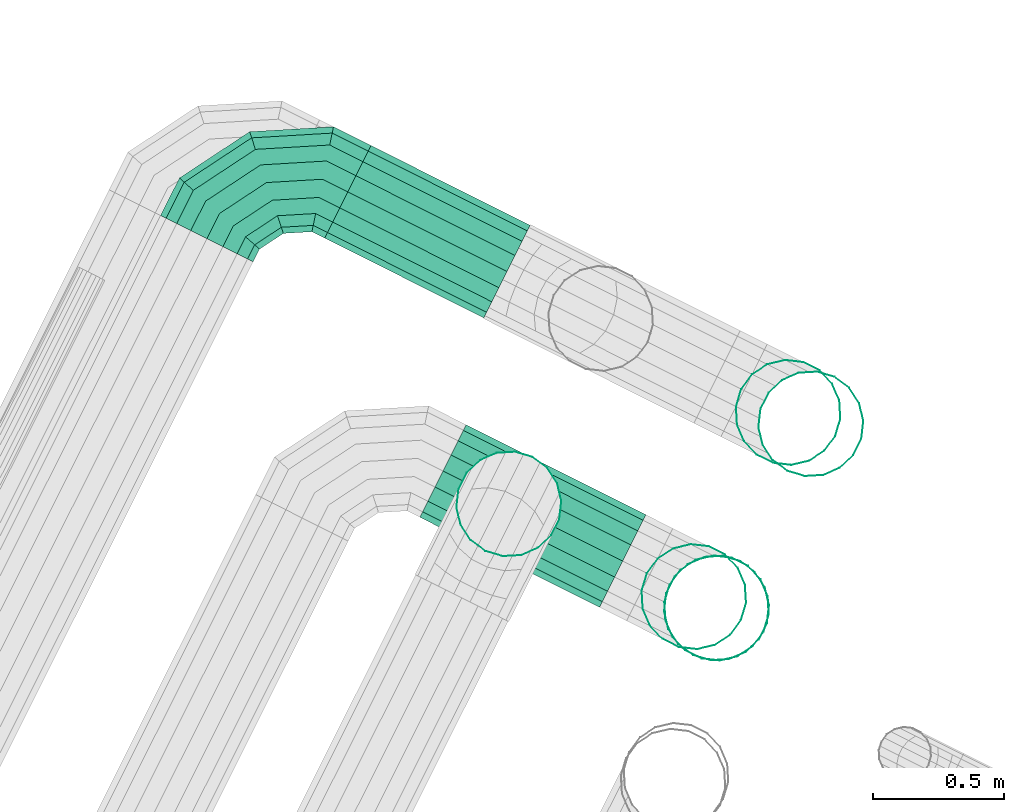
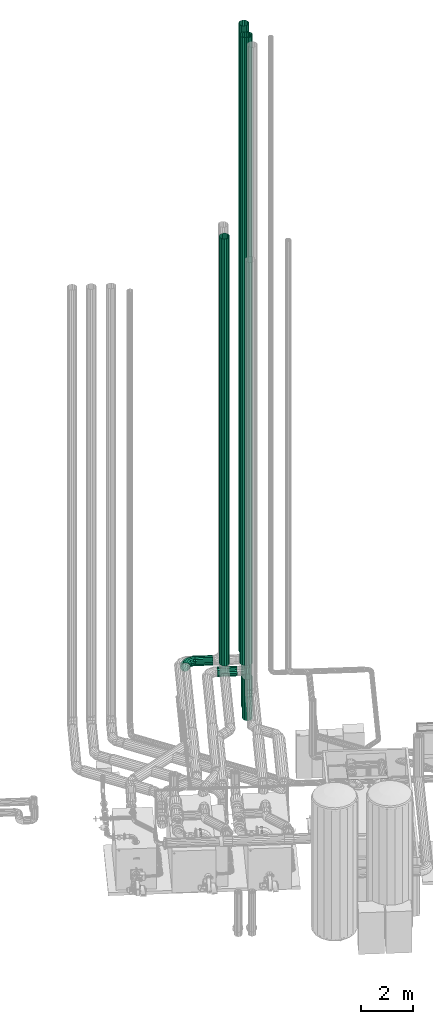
# One storey, part 31 of 206: 8 flow segments, 1 flow fitting.
"""IFC2X3 building model written with IfcOpenShell, lengths in metres."""

from ifc_helpers import new_model, si_unit, derived_unit, direction, frame, origin, place, context, subcontext, project, spatial, face_set, surface_model, source, transform, mapped, material, type_object, type_shapes, element, save


model = new_model("IFC2X3")

# Units and contexts
model_context = context("Model", 3, precision=5.2338327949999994e-05, world=origin(), true_north=direction((0.0, 1.0)))
body_context = subcontext(model_context, "Body", "Model", "MODEL_VIEW")
ifc_project = project(units=[si_unit("LENGTHUNIT", "METRE"), si_unit("AREAUNIT", "SQUARE_METRE"), si_unit("VOLUMEUNIT", "CUBIC_METRE"), si_unit("MASSUNIT", "GRAM", prefix="KILO"), si_unit("PLANEANGLEUNIT", "RADIAN"), derived_unit("THERMALTRANSMITTANCEUNIT", [(si_unit("MASSUNIT", "GRAM", prefix="KILO"), 1), (si_unit("THERMODYNAMICTEMPERATUREUNIT", "KELVIN"), -1), (si_unit("TIMEUNIT", "SECOND"), -3)])], contexts=[model_context])

# Site, building, storey
site_placement = place(None, frame((0.0, 0.0, 0.0), z_axis=(0.0, 0.0, 1.0), x_axis=(0.8939966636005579, -0.4480736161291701, 0.0)))
site = spatial("IfcSite", under=ifc_project, at=site_placement, Name="Default", CompositionType="ELEMENT")
building_placement = place(site_placement, origin())
building = spatial("IfcBuilding", under=site, at=building_placement, CompositionType="ELEMENT")
storey_placement = place(building_placement, origin())
storey = spatial("IfcBuildingStorey", under=building, at=storey_placement, Name="Erdgeschoss", CompositionType="ELEMENT", Elevation=0.0)

# Flow segments
ifc_material = material(Name="IfcSurfaceStyle #251447")
distribution_element_type_1 = type_object("IfcDistributionElementType", Name="Wickelfalzrohr:Wickelfalzrohr", material=ifc_material)
shared_shape_1 = source(origin(), body_context, "Body", "SurfaceModel", [
    surface_model("IfcFaceBasedSurfaceModel", [(26.090831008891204, 17.197595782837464, 2.599999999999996), (26.102892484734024, 17.129191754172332, 2.599999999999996), (26.102892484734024, 17.129191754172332, 32.0), (26.090831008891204, 17.197595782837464, 32.0), (26.137622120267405, 17.069038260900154, 2.599999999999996), (26.137622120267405, 17.069038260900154, 32.0), (26.190831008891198, 17.02439070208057, 2.599999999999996), (26.190831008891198, 17.02439070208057, 32.0), (26.25610137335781, 17.00063423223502, 2.599999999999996), (26.25610137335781, 17.00063423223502, 32.0), (26.325560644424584, 17.000634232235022, 2.599999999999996), (26.325560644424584, 17.000634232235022, 32.0), (26.390831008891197, 17.024390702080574, 2.599999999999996), (26.390831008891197, 17.024390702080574, 32.0), (26.44403989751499, 17.069038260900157, 2.599999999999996), (26.44403989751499, 17.069038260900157, 32.0), (26.478769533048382, 17.12919175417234, 2.599999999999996), (26.478769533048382, 17.12919175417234, 32.0), (26.490831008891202, 17.19759578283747, 2.599999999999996), (26.490831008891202, 17.19759578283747, 32.0), (26.478769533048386, 17.265999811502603, 2.599999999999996), (26.478769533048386, 17.265999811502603, 32.0), (26.444039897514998, 17.32615330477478, 2.599999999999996), (26.444039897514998, 17.32615330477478, 32.0), (26.390831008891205, 17.37080086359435, 2.599999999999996), (26.390831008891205, 17.37080086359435, 32.0), (26.32556064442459, 17.39455733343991, 2.599999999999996), (26.32556064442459, 17.39455733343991, 32.0), (26.25610137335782, 17.39455733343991, 2.599999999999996), (26.25610137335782, 17.39455733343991, 32.0), (26.19083100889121, 17.37080086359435, 2.599999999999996), (26.19083100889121, 17.37080086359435, 32.0), (26.137622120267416, 17.32615330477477, 2.599999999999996), (26.137622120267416, 17.32615330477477, 32.0), (26.10289248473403, 17.265999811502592, 2.599999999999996), (26.10289248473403, 17.265999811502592, 32.0)], [face_set([[[0, 1, 2, 3]], [[1, 4, 5, 2]], [[4, 6, 7, 5]], [[6, 8, 9, 7]], [[8, 10, 11, 9]], [[10, 12, 13, 11]], [[12, 14, 15, 13]], [[14, 16, 17, 15]], [[16, 18, 19, 17]], [[18, 20, 21, 19]], [[20, 22, 23, 21]], [[22, 24, 25, 23]], [[24, 26, 27, 25]], [[26, 28, 29, 27]], [[28, 30, 31, 29]], [[30, 32, 33, 31]], [[32, 34, 35, 33]], [[34, 0, 3, 35]]])]),
])
type_shapes(distribution_element_type_1, [shared_shape_1])
flow_segment_1_placement = place(storey_placement, origin())
element("IfcFlowSegment", 1, at=flow_segment_1_placement, inside=storey, type_object=distribution_element_type_1, material=ifc_material, Name="Wickelfalzrohr", ObjectType="Wickelfalzrohr", context=body_context, shape_type="MappedRepresentation", body=[
    mapped(shared_shape_1, transform((0.0, 0.0, 0.0), scale=1.0)),
])
distribution_element_type_2 = type_object("IfcDistributionElementType", Name="Wickelfalzrohr 251470:Wickelfalzrohr 251470", material=ifc_material)
shared_shape_2 = source(origin(), body_context, "Body", "SurfaceModel", [
    surface_model("IfcFaceBasedSurfaceModel", [(26.08411159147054, 16.41, 2.599999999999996), (26.09617306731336, 16.34159597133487, 2.599999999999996), (26.09617306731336, 16.34159597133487, 32.0), (26.08411159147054, 16.41, 32.0), (26.13090270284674, 16.28144247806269, 2.599999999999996), (26.13090270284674, 16.28144247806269, 32.0), (26.184111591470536, 16.236794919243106, 2.599999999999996), (26.184111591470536, 16.236794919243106, 32.0), (26.24938195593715, 16.21303844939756, 2.599999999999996), (26.24938195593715, 16.21303844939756, 32.0), (26.318841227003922, 16.21303844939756, 2.599999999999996), (26.318841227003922, 16.21303844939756, 32.0), (26.384111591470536, 16.23679491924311, 2.599999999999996), (26.384111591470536, 16.23679491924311, 32.0), (26.43732048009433, 16.281442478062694, 2.599999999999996), (26.43732048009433, 16.281442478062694, 32.0), (26.47205011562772, 16.341595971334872, 2.599999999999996), (26.47205011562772, 16.341595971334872, 32.0), (26.484111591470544, 16.410000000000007, 2.599999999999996), (26.484111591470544, 16.410000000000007, 32.0), (26.472050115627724, 16.47840402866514, 2.599999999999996), (26.472050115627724, 16.47840402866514, 32.0), (26.437320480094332, 16.538557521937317, 2.599999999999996), (26.437320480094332, 16.538557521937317, 32.0), (26.38411159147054, 16.58320508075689, 2.599999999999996), (26.38411159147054, 16.58320508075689, 32.0), (26.318841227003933, 16.606961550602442, 2.599999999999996), (26.318841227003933, 16.606961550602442, 32.0), (26.249381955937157, 16.606961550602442, 2.599999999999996), (26.249381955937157, 16.606961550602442, 32.0), (26.184111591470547, 16.58320508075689, 2.599999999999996), (26.184111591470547, 16.58320508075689, 32.0), (26.130902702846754, 16.538557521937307, 2.599999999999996), (26.130902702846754, 16.538557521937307, 32.0), (26.096173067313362, 16.478404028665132, 2.599999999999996), (26.096173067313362, 16.478404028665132, 32.0)], [face_set([[[0, 1, 2, 3]], [[1, 4, 5, 2]], [[4, 6, 7, 5]], [[6, 8, 9, 7]], [[8, 10, 11, 9]], [[10, 12, 13, 11]], [[12, 14, 15, 13]], [[14, 16, 17, 15]], [[16, 18, 19, 17]], [[18, 20, 21, 19]], [[20, 22, 23, 21]], [[22, 24, 25, 23]], [[24, 26, 27, 25]], [[26, 28, 29, 27]], [[28, 30, 31, 29]], [[30, 32, 33, 31]], [[32, 34, 35, 33]], [[34, 0, 3, 35]]])]),
])
type_shapes(distribution_element_type_2, [shared_shape_2])
flow_segment_2_placement = place(storey_placement, origin())
element("IfcFlowSegment", 2, at=flow_segment_2_placement, inside=storey, type_object=distribution_element_type_2, material=ifc_material, Name="Wickelfalzrohr", ObjectType="Wickelfalzrohr", context=body_context, shape_type="MappedRepresentation", body=[
    mapped(shared_shape_2, transform((0.0, 0.0, 0.0), scale=1.0)),
])
distribution_element_type_3 = type_object("IfcDistributionElementType", Name="Wickelfalzrohr 295868:Wickelfalzrohr 295868", material=ifc_material)
shared_shape_3 = source(origin(), body_context, "Body", "SurfaceModel", [
    surface_model("IfcFaceBasedSurfaceModel", [(25.496428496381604, 16.21, 2.6), (25.564832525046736, 16.22206147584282, 2.6), (25.564832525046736, 16.22206147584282, 22.599999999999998), (25.4964284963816, 16.209999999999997, 22.599999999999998), (25.624986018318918, 16.256791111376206, 2.6), (25.62498601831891, 16.256791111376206, 22.599999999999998), (25.669633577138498, 16.31000000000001, 2.6), (25.669633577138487, 16.310000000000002, 22.599999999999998), (25.693390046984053, 16.37527036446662, 2.6), (25.693390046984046, 16.375270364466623, 22.599999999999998), (25.693390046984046, 16.4447296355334, 2.6), (25.693390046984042, 16.444729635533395, 22.599999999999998), (25.6696335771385, 16.510000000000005, 2.6), (25.669633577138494, 16.510000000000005, 22.599999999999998), (25.624986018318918, 16.563208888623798, 2.6), (25.624986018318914, 16.5632088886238, 22.599999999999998), (25.564832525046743, 16.59793852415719, 2.6), (25.56483252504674, 16.597938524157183, 22.599999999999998), (25.49642849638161, 16.610000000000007, 2.6), (25.496428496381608, 16.61, 22.599999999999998), (25.42802446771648, 16.597938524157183, 2.6), (25.428024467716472, 16.59793852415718, 22.599999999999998), (25.367870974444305, 16.563208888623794, 2.6), (25.3678709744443, 16.56320888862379, 22.599999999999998), (25.323223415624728, 16.51, 2.6), (25.32322341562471, 16.509999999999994, 22.599999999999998), (25.29946694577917, 16.444729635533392, 2.6), (25.29946694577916, 16.444729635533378, 22.599999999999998), (25.29946694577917, 16.37527036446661, 2.6), (25.299466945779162, 16.37527036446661, 22.599999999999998), (25.323223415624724, 16.310000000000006, 2.6), (25.32322341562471, 16.309999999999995, 22.599999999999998), (25.367870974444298, 16.256791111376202, 2.6), (25.36787097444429, 16.2567911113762, 22.599999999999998), (25.428024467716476, 16.222061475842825, 2.6), (25.42802446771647, 16.222061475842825, 22.599999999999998)], [face_set([[[0, 1, 2, 3]], [[1, 4, 5, 2]], [[4, 6, 7, 5]], [[6, 8, 9, 7]], [[8, 10, 11, 9]], [[10, 12, 13, 11]], [[12, 14, 15, 13]], [[14, 16, 17, 15]], [[16, 18, 19, 17]], [[18, 20, 21, 19]], [[20, 22, 23, 21]], [[22, 24, 25, 23]], [[24, 26, 27, 25]], [[26, 28, 29, 27]], [[28, 30, 31, 29]], [[30, 32, 33, 31]], [[32, 34, 35, 33]], [[34, 0, 3, 35]]])]),
])
type_shapes(distribution_element_type_3, [shared_shape_3])
flow_segment_3_placement = place(storey_placement, origin())
element("IfcFlowSegment", 3, at=flow_segment_3_placement, inside=storey, type_object=distribution_element_type_3, material=ifc_material, Name="Wickelfalzrohr", ObjectType="Wickelfalzrohr", context=body_context, shape_type="MappedRepresentation", body=[
    mapped(shared_shape_3, transform((0.0, 0.0, 0.0), scale=1.0)),
])

# Flow fitting
distribution_element_type_4 = type_object("IfcDistributionElementType", Name="Segmentbogen 4 teilig 296837:Segmentbogen 4 teilig 296837", material=ifc_material)
shared_shape_4 = source(origin(), body_context, "Body", "SurfaceModel", [
    surface_model("IfcFaceBasedSurfaceModel", [(24.41588544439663, 17.19759578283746, 2.0), (24.41588544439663, 17.129191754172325, 2.012061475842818), (24.327034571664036, 17.129191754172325, 2.012061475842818), (24.308705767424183, 17.19759578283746, 2.0), (24.41588544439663, 17.069038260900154, 2.0467911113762), (24.343152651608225, 17.069038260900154, 2.0467911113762), (24.41588544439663, 17.02439070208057, 2.0999999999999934), (24.355115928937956, 17.02439070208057, 2.0999999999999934), (24.41588544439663, 17.00063423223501, 2.165270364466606), (24.361481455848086, 17.00063423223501, 2.165270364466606), (24.41588544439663, 17.00063423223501, 2.234729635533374), (24.361481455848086, 17.00063423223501, 2.234729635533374), (24.41588544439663, 17.024390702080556, 2.2999999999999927), (24.355115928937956, 17.024390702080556, 2.2999999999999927), (24.41588544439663, 17.06903826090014, 2.353208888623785), (24.343152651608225, 17.06903826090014, 2.353208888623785), (24.41588544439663, 17.129191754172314, 2.3879385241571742), (24.327034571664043, 17.129191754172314, 2.3879385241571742), (24.41588544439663, 17.19759578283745, 2.3999999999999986), (24.308705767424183, 17.19759578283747, 2.3999999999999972), (24.41588544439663, 17.26599981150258, 2.3879385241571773), (24.290376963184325, 17.26599981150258, 2.3879385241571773), (24.41588544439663, 17.326153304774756, 2.3532088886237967), (24.274258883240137, 17.326153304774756, 2.3532088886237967), (24.41588544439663, 17.370800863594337, 2.3000000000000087), (24.262295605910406, 17.370800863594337, 2.3000000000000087), (24.41588544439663, 17.394557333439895, 2.234729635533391), (24.25593007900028, 17.394557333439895, 2.234729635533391), (24.41588544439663, 17.3945573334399, 2.165270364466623), (24.25593007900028, 17.3945573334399, 2.165270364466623), (24.41588544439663, 17.370800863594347, 2.1000000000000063), (24.262295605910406, 17.370800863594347, 2.1000000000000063), (24.41588544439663, 17.326153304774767, 2.046791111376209), (24.274258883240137, 17.326153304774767, 2.046791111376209), (24.41588544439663, 17.265999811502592, 2.01206147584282), (24.290376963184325, 17.265999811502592, 2.01206147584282), (24.173140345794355, 17.040340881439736, 2.0120614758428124), (24.123065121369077, 17.09041610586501, 2.0), (24.21717575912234, 16.996305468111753, 2.0467911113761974), (24.24986004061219, 16.963621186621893, 2.09999999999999), (24.26725098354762, 16.94623024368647, 2.165270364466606), (24.26725098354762, 16.946230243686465, 2.2347296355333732), (24.24986004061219, 16.963621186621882, 2.2999999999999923), (24.21717575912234, 16.99630546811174, 2.3532088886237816), (24.173140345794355, 17.04034088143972, 2.3879385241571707), (24.123065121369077, 17.090416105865, 2.399999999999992), (24.072989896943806, 17.140491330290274, 2.387938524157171), (24.02895448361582, 17.18452674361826, 2.3532088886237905), (23.99627020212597, 17.217211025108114, 2.300000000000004), (23.978879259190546, 17.234601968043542, 2.2347296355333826), (23.978879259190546, 17.234601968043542, 2.165270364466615), (23.99627020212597, 17.21721102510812, 2.1000000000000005), (24.02895448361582, 17.18452674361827, 2.046791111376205), (24.072989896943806, 17.14049133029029, 2.0120614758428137), (24.084289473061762, 16.88644665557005, 2.012061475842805), (24.01588544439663, 16.904775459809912, 2.0), (24.14444296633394, 16.870328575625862, 2.0467911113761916), (24.18909052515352, 16.858365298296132, 2.0999999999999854), (24.212846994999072, 16.851999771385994, 2.165270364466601), (24.212846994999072, 16.851999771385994, 2.2347296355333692), (24.18909052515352, 16.858365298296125, 2.2999999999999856), (24.14444296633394, 16.870328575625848, 2.353208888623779), (24.084289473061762, 16.886446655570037, 2.3879385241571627), (24.01588544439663, 16.904775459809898, 2.3999999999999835), (23.9474814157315, 16.923104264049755, 2.387938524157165), (23.887327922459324, 16.939222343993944, 2.3532088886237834), (23.84268036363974, 16.951185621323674, 2.299999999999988), (23.818923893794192, 16.957551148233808, 2.2347296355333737), (23.818923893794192, 16.957551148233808, 2.165270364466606), (23.842680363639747, 16.951185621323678, 2.099999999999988), (23.887327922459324, 16.939222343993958, 2.046791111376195), (23.9474814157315, 16.923104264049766, 2.01206147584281), (24.084289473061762, 16.797595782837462, 2.0120614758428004), (24.01588544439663, 16.797595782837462, 2.0), (24.14444296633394, 16.79759578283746, 2.0467911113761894), (24.18909052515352, 16.79759578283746, 2.0999999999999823), (24.212846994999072, 16.797595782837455, 2.165270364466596), (24.212846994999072, 16.79759578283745, 2.2347296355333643), (24.189090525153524, 16.79759578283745, 2.2999999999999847), (24.14444296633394, 16.79759578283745, 2.3532088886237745), (24.084289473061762, 16.797595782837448, 2.387938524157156), (24.01588544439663, 16.797595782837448, 2.3999999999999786), (23.947481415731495, 16.797595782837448, 2.3879385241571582), (23.887327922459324, 16.79759578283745, 2.353208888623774), (23.84268036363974, 16.79759578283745, 2.2999999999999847), (23.818923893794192, 16.79759578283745, 2.2347296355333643), (23.818923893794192, 16.797595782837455, 2.165270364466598), (23.84268036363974, 16.79759578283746, 2.0999999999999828), (23.887327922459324, 16.79759578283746, 2.0467911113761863), (23.947481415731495, 16.797595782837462, 2.012061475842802)], [face_set([[[0, 1, 2, 3]], [[1, 4, 5, 2]], [[4, 6, 7, 5]], [[6, 8, 9, 7]], [[8, 10, 11, 9]], [[10, 12, 13, 11]], [[12, 14, 15, 13]], [[14, 16, 17, 15]], [[16, 18, 19, 17]], [[18, 20, 21, 19]], [[20, 22, 23, 21]], [[22, 24, 25, 23]], [[24, 26, 27, 25]], [[26, 28, 29, 27]], [[28, 30, 31, 29]], [[30, 32, 33, 31]], [[32, 34, 35, 33]], [[34, 0, 3, 35]], [[3, 2, 36, 37]], [[2, 5, 38, 36]], [[5, 7, 39, 38]], [[7, 9, 40, 39]], [[9, 11, 41, 40]], [[11, 13, 42, 41]], [[13, 15, 43, 42]], [[15, 17, 44, 43]], [[17, 19, 45, 44]], [[19, 21, 46, 45]], [[21, 23, 47, 46]], [[23, 25, 48, 47]], [[25, 27, 49, 48]], [[27, 29, 50, 49]], [[29, 31, 51, 50]], [[31, 33, 52, 51]], [[33, 35, 53, 52]], [[35, 3, 37, 53]], [[37, 36, 54, 55]], [[36, 38, 56, 54]], [[38, 39, 57, 56]], [[39, 40, 58, 57]], [[40, 41, 59, 58]], [[41, 42, 60, 59]], [[42, 43, 61, 60]], [[43, 44, 62, 61]], [[44, 45, 63, 62]], [[45, 46, 64, 63]], [[46, 47, 65, 64]], [[47, 48, 66, 65]], [[48, 49, 67, 66]], [[49, 50, 68, 67]], [[50, 51, 69, 68]], [[51, 52, 70, 69]], [[52, 53, 71, 70]], [[53, 37, 55, 71]], [[55, 54, 72, 73]], [[54, 56, 74, 72]], [[56, 57, 75, 74]], [[57, 58, 76, 75]], [[58, 59, 77, 76]], [[59, 60, 78, 77]], [[60, 61, 79, 78]], [[61, 62, 80, 79]], [[62, 63, 81, 80]], [[63, 64, 82, 81]], [[64, 65, 83, 82]], [[65, 66, 84, 83]], [[66, 67, 85, 84]], [[67, 68, 86, 85]], [[68, 69, 87, 86]], [[69, 70, 88, 87]], [[70, 71, 89, 88]], [[71, 55, 73, 89]]])]),
])
type_shapes(distribution_element_type_4, [shared_shape_4])
flow_fitting_placement = place(storey_placement, origin())
element("IfcFlowFitting", 4, at=flow_fitting_placement, inside=storey, type_object=distribution_element_type_4, material=ifc_material, Name="Segmentbogen 4 teilig", ObjectType="Segmentbogen 4 teilig", context=body_context, shape_type="MappedRepresentation", body=[
    mapped(shared_shape_4, transform((0.0, 0.0, 0.0), scale=1.0)),
])

# Flow segments
distribution_element_type_5 = type_object("IfcDistributionElementType", Name="Wickelfalzrohr 296887:Wickelfalzrohr 296887", material=ifc_material)
shared_shape_5 = source(origin(), body_context, "Body", "SurfaceModel", [
    surface_model("IfcFaceBasedSurfaceModel", [(24.415885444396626, 17.19759578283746, 2.0), (24.415885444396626, 17.265999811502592, 2.0120614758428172), (25.093021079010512, 17.265999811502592, 2.0120614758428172), (25.093021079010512, 17.19759578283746, 2.0), (24.415885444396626, 17.326153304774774, 2.0467911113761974), (25.093021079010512, 17.32615330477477, 2.0467911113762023), (24.415885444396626, 17.37080086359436, 2.0999999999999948), (25.093021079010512, 17.37080086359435, 2.0999999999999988), (24.415885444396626, 17.394557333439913, 2.165270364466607), (25.093021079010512, 17.394557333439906, 2.1652703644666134), (24.415885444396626, 17.394557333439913, 2.2347296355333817), (25.093021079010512, 17.394557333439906, 2.2347296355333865), (24.415885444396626, 17.370800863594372, 2.2999999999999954), (25.093021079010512, 17.37080086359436, 2.3000000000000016), (24.415885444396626, 17.326153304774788, 2.3532088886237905), (25.093021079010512, 17.32615330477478, 2.3532088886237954), (24.415885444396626, 17.265999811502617, 2.387938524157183), (25.093021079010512, 17.265999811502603, 2.3879385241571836), (24.415885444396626, 17.197595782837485, 2.4000000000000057), (25.093021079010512, 17.197595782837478, 2.400000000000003), (24.415885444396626, 17.12919175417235, 2.387938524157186), (25.093021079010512, 17.12919175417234, 2.387938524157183), (24.415885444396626, 17.069038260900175, 2.3532088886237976), (25.093021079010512, 17.069038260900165, 2.3532088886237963), (24.415885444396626, 17.024390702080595, 2.3000000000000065), (25.093021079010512, 17.024390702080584, 2.3000000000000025), (24.415885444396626, 17.000634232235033, 2.234729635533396), (25.093021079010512, 17.000634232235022, 2.2347296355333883), (24.415885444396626, 17.000634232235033, 2.1652703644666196), (25.093021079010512, 17.000634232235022, 2.165270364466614), (24.415885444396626, 17.02439070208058, 2.1000000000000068), (25.093021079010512, 17.024390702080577, 2.1), (24.415885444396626, 17.069038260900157, 2.046791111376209), (25.093021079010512, 17.069038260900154, 2.046791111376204), (24.415885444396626, 17.12919175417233, 2.012061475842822), (25.093021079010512, 17.129191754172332, 2.0120614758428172)], [face_set([[[0, 1, 2, 3]], [[1, 4, 5, 2]], [[4, 6, 7, 5]], [[6, 8, 9, 7]], [[8, 10, 11, 9]], [[10, 12, 13, 11]], [[12, 14, 15, 13]], [[14, 16, 17, 15]], [[16, 18, 19, 17]], [[18, 20, 21, 19]], [[20, 22, 23, 21]], [[22, 24, 25, 23]], [[24, 26, 27, 25]], [[26, 28, 29, 27]], [[28, 30, 31, 29]], [[30, 32, 33, 31]], [[32, 34, 35, 33]], [[34, 0, 3, 35]]])]),
])
type_shapes(distribution_element_type_5, [shared_shape_5])
flow_segment_4_placement = place(storey_placement, origin())
element("IfcFlowSegment", 5, at=flow_segment_4_placement, inside=storey, type_object=distribution_element_type_5, material=ifc_material, Name="Wickelfalzrohr", ObjectType="Wickelfalzrohr", context=body_context, shape_type="MappedRepresentation", body=[
    mapped(shared_shape_5, transform((0.0, 0.0, 0.0), scale=1.0)),
])
distribution_element_type_6 = type_object("IfcDistributionElementType", Name="Wickelfalzrohr 621210:Wickelfalzrohr 621210", material=ifc_material)
shared_shape_6 = source(origin(), body_context, "Body", "SurfaceModel", [
    surface_model("IfcFaceBasedSurfaceModel", [(25.215704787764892, 16.410000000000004, 2.010000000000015), (25.215704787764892, 16.478404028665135, 2.022061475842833), (25.980704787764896, 16.478404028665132, 2.022061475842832), (25.9807047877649, 16.409999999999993, 2.010000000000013), (25.215704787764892, 16.538557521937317, 2.0567911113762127), (25.980704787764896, 16.53855752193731, 2.0567911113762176), (25.215704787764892, 16.583205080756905, 2.110000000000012), (25.980704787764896, 16.58320508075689, 2.1100000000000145), (25.215704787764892, 16.606961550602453, 2.1752703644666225), (25.980704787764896, 16.606961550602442, 2.1752703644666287), (25.215704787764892, 16.60696155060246, 2.244729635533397), (25.980704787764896, 16.606961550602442, 2.244729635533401), (25.215704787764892, 16.583205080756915, 2.310000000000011), (25.9807047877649, 16.583205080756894, 2.3100000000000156), (25.215704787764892, 16.538557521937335, 2.3632088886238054), (25.9807047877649, 16.538557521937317, 2.3632088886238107), (25.215704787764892, 16.47840402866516, 2.3979385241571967), (25.9807047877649, 16.478404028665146, 2.3979385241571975), (25.215704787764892, 16.41000000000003, 2.410000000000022), (25.9807047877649, 16.41000000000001, 2.410000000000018), (25.215704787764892, 16.341595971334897, 2.3979385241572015), (25.9807047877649, 16.341595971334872, 2.3979385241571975), (25.215704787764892, 16.281442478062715, 2.3632088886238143), (25.9807047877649, 16.281442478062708, 2.363208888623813), (25.215704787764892, 16.236794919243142, 2.3100000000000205), (25.9807047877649, 16.236794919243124, 2.310000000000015), (25.215704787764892, 16.213038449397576, 2.2447296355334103), (25.9807047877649, 16.213038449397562, 2.244729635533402), (25.215704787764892, 16.213038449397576, 2.175270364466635), (25.9807047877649, 16.213038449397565, 2.1752703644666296), (25.215704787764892, 16.23679491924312, 2.1100000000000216), (25.9807047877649, 16.236794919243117, 2.1100000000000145), (25.215704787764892, 16.2814424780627, 2.056791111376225), (25.9807047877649, 16.281442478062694, 2.0567911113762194), (25.215704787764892, 16.341595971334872, 2.022061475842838), (25.9807047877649, 16.34159597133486, 2.0220614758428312)], [face_set([[[0, 1, 2, 3]], [[1, 4, 5, 2]], [[4, 6, 7, 5]], [[6, 8, 9, 7]], [[8, 10, 11, 9]], [[10, 12, 13, 11]], [[12, 14, 15, 13]], [[14, 16, 17, 15]], [[16, 18, 19, 17]], [[18, 20, 21, 19]], [[20, 22, 23, 21]], [[22, 24, 25, 23]], [[24, 26, 27, 25]], [[26, 28, 29, 27]], [[28, 30, 31, 29]], [[30, 32, 33, 31]], [[32, 34, 35, 33]], [[34, 0, 3, 35]]])]),
])
type_shapes(distribution_element_type_6, [shared_shape_6])
flow_segment_5_placement = place(storey_placement, origin())
element("IfcFlowSegment", 6, at=flow_segment_5_placement, inside=storey, type_object=distribution_element_type_6, material=ifc_material, Name="Wickelfalzrohr", ObjectType="Wickelfalzrohr", context=body_context, shape_type="MappedRepresentation", body=[
    mapped(shared_shape_6, transform((0.0, 0.0, 0.0), scale=1.0)),
])
distribution_element_type_7 = type_object("IfcDistributionElementType", Name="Wickelfalzrohr 621721:Wickelfalzrohr 621721", material=ifc_material)
shared_shape_7 = source(origin(), body_context, "Body", "SurfaceModel", [
    surface_model("IfcFaceBasedSurfaceModel", [(26.180791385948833, 16.41, 2.6), (26.192852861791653, 16.34159597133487, 2.6), (26.192852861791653, 16.34159597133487, 32.0), (26.180791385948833, 16.41, 32.0), (26.227582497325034, 16.28144247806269, 2.6), (26.227582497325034, 16.28144247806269, 32.0), (26.28079138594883, 16.236794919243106, 2.6), (26.28079138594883, 16.236794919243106, 32.0), (26.346061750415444, 16.21303844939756, 2.6), (26.346061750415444, 16.21303844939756, 32.0), (26.415521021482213, 16.21303844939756, 2.6), (26.415521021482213, 16.21303844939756, 32.0), (26.48079138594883, 16.23679491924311, 2.6), (26.48079138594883, 16.23679491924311, 32.0), (26.534000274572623, 16.281442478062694, 2.6), (26.534000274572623, 16.281442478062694, 32.0), (26.568729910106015, 16.341595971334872, 2.6), (26.568729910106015, 16.341595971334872, 32.0), (26.58079138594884, 16.410000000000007, 2.6), (26.58079138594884, 16.410000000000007, 32.0), (26.56872991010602, 16.47840402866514, 2.6), (26.56872991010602, 16.47840402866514, 32.0), (26.534000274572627, 16.538557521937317, 2.6), (26.534000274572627, 16.538557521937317, 32.0), (26.480791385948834, 16.58320508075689, 2.6), (26.480791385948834, 16.58320508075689, 32.0), (26.415521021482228, 16.606961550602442, 2.6), (26.415521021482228, 16.606961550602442, 32.0), (26.34606175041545, 16.606961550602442, 2.6), (26.34606175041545, 16.606961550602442, 32.0), (26.28079138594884, 16.583205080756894, 2.6), (26.28079138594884, 16.583205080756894, 32.0), (26.22758249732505, 16.538557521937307, 2.6), (26.22758249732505, 16.538557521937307, 32.0), (26.19285286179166, 16.478404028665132, 2.6), (26.19285286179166, 16.478404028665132, 32.0)], [face_set([[[0, 1, 2, 3]], [[1, 4, 5, 2]], [[4, 6, 7, 5]], [[6, 8, 9, 7]], [[8, 10, 11, 9]], [[10, 12, 13, 11]], [[12, 14, 15, 13]], [[14, 16, 17, 15]], [[16, 18, 19, 17]], [[18, 20, 21, 19]], [[20, 22, 23, 21]], [[22, 24, 25, 23]], [[24, 26, 27, 25]], [[26, 28, 29, 27]], [[28, 30, 31, 29]], [[30, 32, 33, 31]], [[32, 34, 35, 33]], [[34, 0, 3, 35]]])]),
])
type_shapes(distribution_element_type_7, [shared_shape_7])
flow_segment_6_placement = place(storey_placement, origin())
element("IfcFlowSegment", 7, at=flow_segment_6_placement, inside=storey, type_object=distribution_element_type_7, material=ifc_material, Name="Wickelfalzrohr", ObjectType="Wickelfalzrohr", context=body_context, shape_type="MappedRepresentation", body=[
    mapped(shared_shape_7, transform((0.0, 0.0, 0.0), scale=1.0)),
])
distribution_element_type_8 = type_object("IfcDistributionElementType", Name="Wickelfalzrohr 622986:Wickelfalzrohr 622986", material=ifc_material)
shared_shape_8 = source(origin(), body_context, "Body", "SurfaceModel", [
    surface_model("IfcFaceBasedSurfaceModel", [(26.3875108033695, 17.39759578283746, 1.9150000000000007), (26.455914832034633, 17.385534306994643, 1.9150000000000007), (26.455914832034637, 17.385534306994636, 0.0), (26.3875108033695, 17.397595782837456, 0.0), (26.51606832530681, 17.35080467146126, 1.9150000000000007), (26.51606832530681, 17.350804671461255, 0.0), (26.560715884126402, 17.297595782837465, 1.9150000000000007), (26.56071588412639, 17.297595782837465, 0.0), (26.58447235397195, 17.232325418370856, 1.9150000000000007), (26.584472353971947, 17.232325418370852, 0.0), (26.584472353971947, 17.162866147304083, 1.9150000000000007), (26.584472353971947, 17.162866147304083, 0.0), (26.560715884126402, 17.09759578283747, 1.9150000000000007), (26.560715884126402, 17.097595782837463, 0.0), (26.516068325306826, 17.044386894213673, 1.9150000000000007), (26.51606832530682, 17.04438689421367, 0.0), (26.45591483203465, 17.00965725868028, 1.9150000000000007), (26.45591483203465, 17.00965725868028, 0.0), (26.38751080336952, 16.99759578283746, 1.9150000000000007), (26.387510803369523, 16.99759578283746, 0.0), (26.319106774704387, 17.00965725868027, 1.9150000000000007), (26.319106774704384, 17.009657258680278, 0.0), (26.25895328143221, 17.04438689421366, 1.9150000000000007), (26.25895328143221, 17.04438689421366, 0.0), (26.214305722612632, 17.097595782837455, 1.9150000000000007), (26.214305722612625, 17.09759578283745, 0.0), (26.19054925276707, 17.16286614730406, 1.9150000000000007), (26.19054925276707, 17.16286614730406, 0.0), (26.19054925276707, 17.232325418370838, 1.9150000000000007), (26.19054925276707, 17.232325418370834, 0.0), (26.21430572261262, 17.297595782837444, 1.9150000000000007), (26.214305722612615, 17.297595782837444, 0.0), (26.258953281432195, 17.350804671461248, 1.9150000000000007), (26.258953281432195, 17.350804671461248, 0.0), (26.31910677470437, 17.385534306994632, 1.9150000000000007), (26.31910677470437, 17.385534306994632, 0.0)], [face_set([[[0, 1, 2, 3]], [[1, 4, 5, 2]], [[4, 6, 7, 5]], [[6, 8, 9, 7]], [[8, 10, 11, 9]], [[10, 12, 13, 11]], [[12, 14, 15, 13]], [[14, 16, 17, 15]], [[16, 18, 19, 17]], [[18, 20, 21, 19]], [[20, 22, 23, 21]], [[22, 24, 25, 23]], [[24, 26, 27, 25]], [[26, 28, 29, 27]], [[28, 30, 31, 29]], [[30, 32, 33, 31]], [[32, 34, 35, 33]], [[34, 0, 3, 35]]])]),
])
type_shapes(distribution_element_type_8, [shared_shape_8])
flow_segment_7_placement = place(storey_placement, origin())
element("IfcFlowSegment", 8, at=flow_segment_7_placement, inside=storey, type_object=distribution_element_type_8, material=ifc_material, Name="Wickelfalzrohr", ObjectType="Wickelfalzrohr", context=body_context, shape_type="MappedRepresentation", body=[
    mapped(shared_shape_8, transform((0.0, 0.0, 0.0), scale=1.0)),
])
distribution_element_type_9 = type_object("IfcDistributionElementType", Name="Wickelfalzrohr 623141:Wickelfalzrohr 623141", material=ifc_material)
shared_shape_9 = source(origin(), body_context, "Body", "SurfaceModel", [
    surface_model("IfcFaceBasedSurfaceModel", [(26.38079138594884, 16.60999999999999, 1.925000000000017), (26.44919541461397, 16.597938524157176, 1.925000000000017), (26.44919541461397, 16.597938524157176, 0.0), (26.380791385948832, 16.609999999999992, 0.0), (26.50934890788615, 16.563208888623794, 1.925000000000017), (26.509348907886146, 16.56320888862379, 0.0), (26.553996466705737, 16.51, 1.925000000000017), (26.553996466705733, 16.51, 0.0), (26.577752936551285, 16.44472963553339, 1.925000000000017), (26.577752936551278, 16.444729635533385, 0.0), (26.577752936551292, 16.375270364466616, 1.925000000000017), (26.57775293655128, 16.37527036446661, 0.0), (26.55399646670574, 16.310000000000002, 1.925000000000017), (26.553996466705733, 16.31, 0.0), (26.509348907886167, 16.256791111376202, 1.925000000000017), (26.50934890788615, 16.256791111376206, 0.0), (26.44919541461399, 16.222061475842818, 1.925000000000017), (26.449195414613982, 16.22206147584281, 0.0), (26.380791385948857, 16.209999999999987, 1.925000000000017), (26.380791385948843, 16.209999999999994, 0.0), (26.312387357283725, 16.222061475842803, 1.925000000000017), (26.312387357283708, 16.22206147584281, 0.0), (26.252233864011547, 16.256791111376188, 1.925000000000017), (26.252233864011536, 16.25679111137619, 0.0), (26.207586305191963, 16.309999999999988, 1.925000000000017), (26.20758630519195, 16.309999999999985, 0.0), (26.183829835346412, 16.375270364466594, 1.925000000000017), (26.183829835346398, 16.375270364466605, 0.0), (26.183829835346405, 16.444729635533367, 1.925000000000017), (26.1838298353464, 16.444729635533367, 0.0), (26.207586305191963, 16.509999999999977, 1.925000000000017), (26.20758630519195, 16.509999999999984, 0.0), (26.252233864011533, 16.56320888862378, 1.925000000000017), (26.25223386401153, 16.563208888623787, 0.0), (26.312387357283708, 16.597938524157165, 1.925000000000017), (26.3123873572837, 16.59793852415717, 0.0)], [face_set([[[0, 1, 2, 3]], [[1, 4, 5, 2]], [[4, 6, 7, 5]], [[6, 8, 9, 7]], [[8, 10, 11, 9]], [[10, 12, 13, 11]], [[12, 14, 15, 13]], [[14, 16, 17, 15]], [[16, 18, 19, 17]], [[18, 20, 21, 19]], [[20, 22, 23, 21]], [[22, 24, 25, 23]], [[24, 26, 27, 25]], [[26, 28, 29, 27]], [[28, 30, 31, 29]], [[30, 32, 33, 31]], [[32, 34, 35, 33]], [[34, 0, 3, 35]]])]),
])
type_shapes(distribution_element_type_9, [shared_shape_9])
flow_segment_8_placement = place(storey_placement, origin())
element("IfcFlowSegment", 9, at=flow_segment_8_placement, inside=storey, type_object=distribution_element_type_9, material=ifc_material, Name="Wickelfalzrohr", ObjectType="Wickelfalzrohr", context=body_context, shape_type="MappedRepresentation", body=[
    mapped(shared_shape_9, transform((0.0, 0.0, 0.0), scale=1.0)),
])

save(model, "model.ifc")
